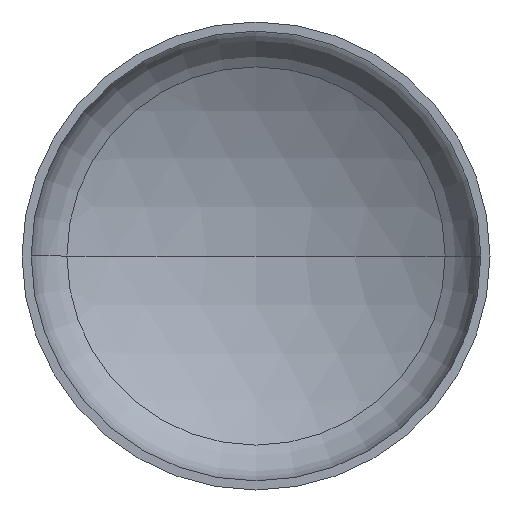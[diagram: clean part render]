
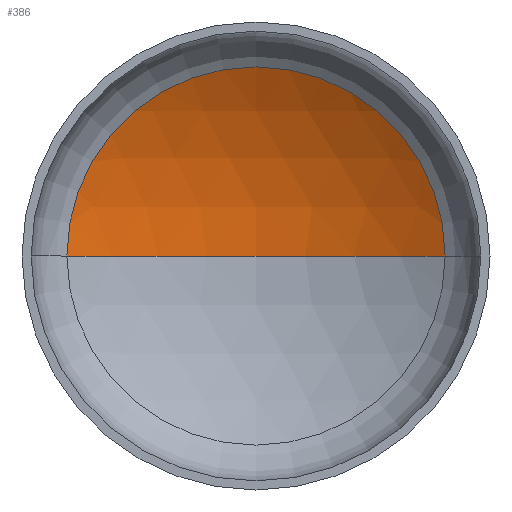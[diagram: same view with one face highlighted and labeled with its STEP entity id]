
A CAD part, front view. The second image highlights one B-rep face of the part: STEP entity #386.
In plain terms, the highlighted spherical face has radius 1920 mm.
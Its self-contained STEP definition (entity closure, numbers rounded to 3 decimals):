
#5 = AXIS2_PLACEMENT_3D ( 'NONE', #105, #289, #178 ) ;
#14 = AXIS2_PLACEMENT_3D ( 'NONE', #236, #233, #229 ) ;
#51 = AXIS2_PLACEMENT_3D ( 'NONE', #332, #185, #201 ) ;
#52 = EDGE_LOOP ( 'NONE', ( #146, #138, #72 ) ) ;
#58 = AXIS2_PLACEMENT_3D ( 'NONE', #262, #261, #200 ) ;
#65 = VERTEX_POINT ( 'NONE', #268 ) ;
#72 = ORIENTED_EDGE ( 'NONE', *, *, #213, .T. ) ;
#105 = CARTESIAN_POINT ( 'NONE',  ( 0., -1187.689, 0. ) ) ;
#126 = VERTEX_POINT ( 'NONE', #337 ) ;
#138 = ORIENTED_EDGE ( 'NONE', *, *, #220, .T. ) ;
#146 = ORIENTED_EDGE ( 'NONE', *, *, #378, .F. ) ;
#147 = CARTESIAN_POINT ( 'NONE',  ( 0., 732.311, 0. ) ) ;
#178 = DIRECTION ( 'NONE',  ( -1., 0., 0. ) ) ;
#182 = FACE_OUTER_BOUND ( 'NONE', #52, .T. ) ;
#185 = DIRECTION ( 'NONE',  ( 0., 0., -1. ) ) ;
#200 = DIRECTION ( 'NONE',  ( 1., 0., 0. ) ) ;
#201 = DIRECTION ( 'NONE',  ( -1., 0., 0. ) ) ;
#213 = EDGE_CURVE ( 'NONE', #126, #65, #294, .T. ) ;
#220 = EDGE_CURVE ( 'NONE', #411, #126, #388, .T. ) ;
#229 = DIRECTION ( 'NONE',  ( 1., 0., 0. ) ) ;
#233 = DIRECTION ( 'NONE',  ( 0., 0., 1. ) ) ;
#236 = CARTESIAN_POINT ( 'NONE',  ( 0., -1187.689, 0. ) ) ;
#259 = CIRCLE ( 'NONE', #14, 1920. ) ;
#261 = DIRECTION ( 'NONE',  ( 0., -1., 0. ) ) ;
#262 = CARTESIAN_POINT ( 'NONE',  ( 0., 469.319, 0. ) ) ;
#268 = CARTESIAN_POINT ( 'NONE',  ( -969.91, 469.319, 0. ) ) ;
#289 = DIRECTION ( 'NONE',  ( 0., 0., -1. ) ) ;
#294 = CIRCLE ( 'NONE', #58, 969.91 ) ;
#332 = CARTESIAN_POINT ( 'NONE',  ( 0., -1187.689, 0. ) ) ;
#337 = CARTESIAN_POINT ( 'NONE',  ( 969.91, 469.319, 0. ) ) ;
#378 = EDGE_CURVE ( 'NONE', #411, #65, #259, .T. ) ;
#386 = ADVANCED_FACE ( 'NONE', ( #182 ), #406, .F. ) ;
#388 = CIRCLE ( 'NONE', #51, 1920. ) ;
#406 = SPHERICAL_SURFACE ( 'NONE', #5, 1920. ) ;
#411 = VERTEX_POINT ( 'NONE', #147 ) ;
